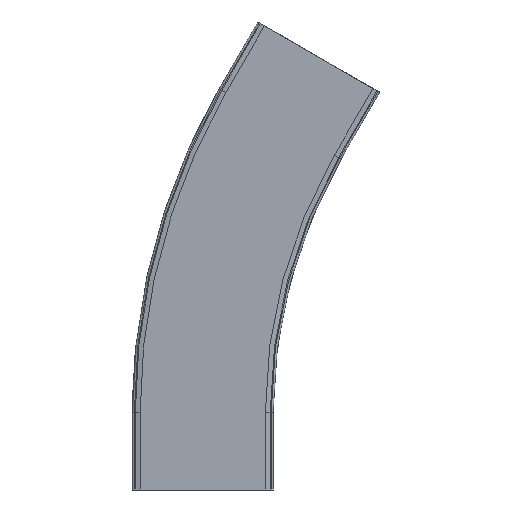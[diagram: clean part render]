
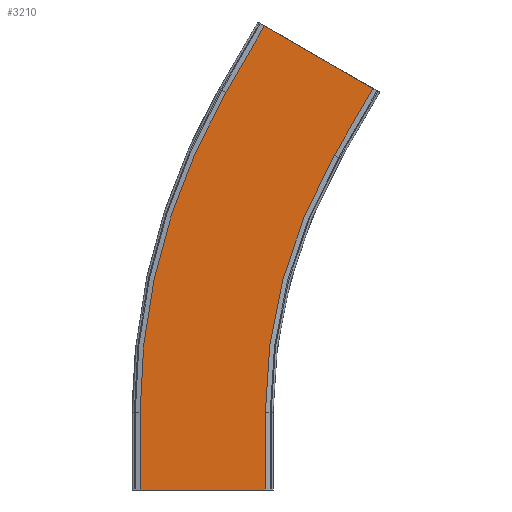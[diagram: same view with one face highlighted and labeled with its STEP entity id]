
A CAD part, front view. The second image highlights one B-rep face of the part: STEP entity #3210.
In plain terms, the highlighted planar face has unit normal (0, -1, 0).
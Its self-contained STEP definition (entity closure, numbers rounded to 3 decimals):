
#129=CIRCLE('',#3412,535.);
#130=CIRCLE('',#3414,665.);
#272=FACE_OUTER_BOUND('',#447,.T.);
#447=EDGE_LOOP('',(#2153,#2154,#2155,#2156,#2157,#2158,#2159,#2160));
#629=LINE('',#4490,#979);
#633=LINE('',#4497,#983);
#644=LINE('',#4530,#994);
#645=LINE('',#4532,#995);
#646=LINE('',#4533,#996);
#647=LINE('',#4534,#997);
#979=VECTOR('',#3652,10.);
#983=VECTOR('',#3658,10.);
#994=VECTOR('',#3689,10.);
#995=VECTOR('',#3690,10.);
#996=VECTOR('',#3691,10.);
#997=VECTOR('',#3692,10.);
#1329=VERTEX_POINT('',#4487);
#1330=VERTEX_POINT('',#4489);
#1332=VERTEX_POINT('',#4495);
#1341=VERTEX_POINT('',#4521);
#1342=VERTEX_POINT('',#4523);
#1343=VERTEX_POINT('',#4527);
#1344=VERTEX_POINT('',#4529);
#1345=VERTEX_POINT('',#4531);
#1645=EDGE_CURVE('',#1330,#1329,#629,.T.);
#1649=EDGE_CURVE('',#1332,#1329,#633,.T.);
#1662=EDGE_CURVE('',#1342,#1341,#129,.T.);
#1664=EDGE_CURVE('',#1343,#1332,#130,.T.);
#1665=EDGE_CURVE('',#1344,#1343,#644,.T.);
#1666=EDGE_CURVE('',#1344,#1345,#645,.T.);
#1667=EDGE_CURVE('',#1345,#1342,#646,.T.);
#1668=EDGE_CURVE('',#1341,#1330,#647,.T.);
#2153=ORIENTED_EDGE('',*,*,#1645,.T.);
#2154=ORIENTED_EDGE('',*,*,#1649,.F.);
#2155=ORIENTED_EDGE('',*,*,#1664,.F.);
#2156=ORIENTED_EDGE('',*,*,#1665,.F.);
#2157=ORIENTED_EDGE('',*,*,#1666,.T.);
#2158=ORIENTED_EDGE('',*,*,#1667,.T.);
#2159=ORIENTED_EDGE('',*,*,#1662,.T.);
#2160=ORIENTED_EDGE('',*,*,#1668,.T.);
#3091=PLANE('',#3413);
#3210=ADVANCED_FACE('',(#272),#3091,.T.);
#3412=AXIS2_PLACEMENT_3D('',#4524,#3682,#3683);
#3413=AXIS2_PLACEMENT_3D('',#4526,#3685,#3686);
#3414=AXIS2_PLACEMENT_3D('',#4528,#3687,#3688);
#3652=DIRECTION('',(-0.866,0.,0.5));
#3658=DIRECTION('',(0.5,0.,0.866));
#3682=DIRECTION('center_axis',(0.,1.,0.));
#3683=DIRECTION('ref_axis',(-1.,0.,0.));
#3685=DIRECTION('center_axis',(0.,-1.,0.));
#3686=DIRECTION('ref_axis',(-0.5,0.,-0.866));
#3687=DIRECTION('center_axis',(0.,1.,0.));
#3688=DIRECTION('ref_axis',(-1.,0.,0.));
#3689=DIRECTION('',(0.,0.,1.));
#3690=DIRECTION('',(1.,0.,0.));
#3691=DIRECTION('',(0.,0.,1.));
#3692=DIRECTION('',(0.5,0.,0.866));
#4487=CARTESIAN_POINT('',(103.094,-72.,481.782));
#4489=CARTESIAN_POINT('',(215.677,-72.,416.782));
#4490=CARTESIAN_POINT('',(186.232,-72.,433.782));
#4495=CARTESIAN_POINT('',(63.094,-72.,412.5));
#4497=CARTESIAN_POINT('',(-133.986,-72.,71.148));
#4521=CARTESIAN_POINT('',(175.677,-72.,347.5));
#4523=CARTESIAN_POINT('',(104.001,-72.,80.));
#4524=CARTESIAN_POINT('Origin',(639.001,-72.,80.));
#4526=CARTESIAN_POINT('Origin',(-21.403,-72.,6.148));
#4527=CARTESIAN_POINT('',(-25.999,-72.,80.));
#4528=CARTESIAN_POINT('Origin',(639.001,-72.,80.));
#4529=CARTESIAN_POINT('',(-25.999,-72.,0.));
#4530=CARTESIAN_POINT('',(-25.999,-72.,0.));
#4531=CARTESIAN_POINT('',(104.001,-72.,0.));
#4532=CARTESIAN_POINT('',(-25.999,-72.,0.));
#4533=CARTESIAN_POINT('',(104.001,-72.,0.));
#4534=CARTESIAN_POINT('',(-21.403,-72.,6.148));
